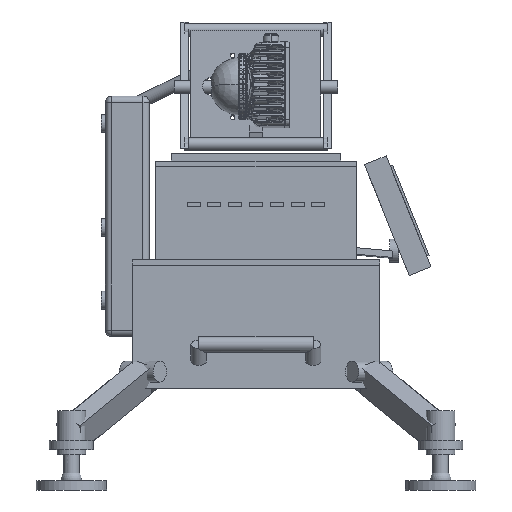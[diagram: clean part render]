
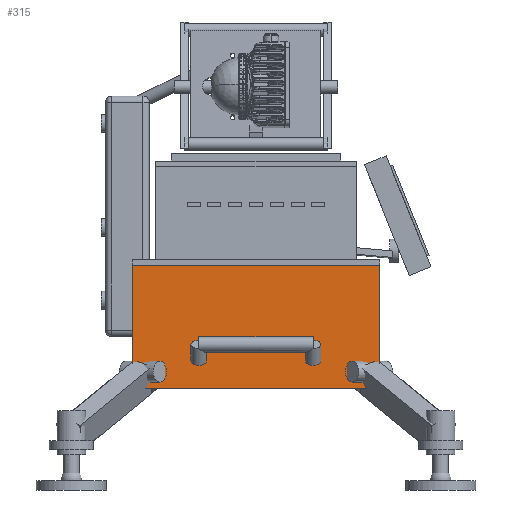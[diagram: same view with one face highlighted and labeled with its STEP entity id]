
A CAD part, left-side view. The second image highlights one B-rep face of the part: STEP entity #315.
In plain terms, the highlighted planar face has unit normal (-1, 0, 0).
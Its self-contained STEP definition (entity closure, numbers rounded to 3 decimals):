
#315 = ADVANCED_FACE('',(#316),#350,.F.);
#316 = FACE_BOUND('',#317,.F.);
#317 = EDGE_LOOP('',(#318,#328,#336,#344));
#318 = ORIENTED_EDGE('',*,*,#319,.F.);
#319 = EDGE_CURVE('',#320,#322,#324,.T.);
#320 = VERTEX_POINT('',#321);
#321 = CARTESIAN_POINT('',(-110.,-95.,78.));
#322 = VERTEX_POINT('',#323);
#323 = CARTESIAN_POINT('',(-110.,-95.,173.));
#324 = LINE('',#325,#326);
#325 = CARTESIAN_POINT('',(-110.,-95.,78.));
#326 = VECTOR('',#327,1.);
#327 = DIRECTION('',(0.,0.,1.));
#328 = ORIENTED_EDGE('',*,*,#329,.T.);
#329 = EDGE_CURVE('',#320,#330,#332,.T.);
#330 = VERTEX_POINT('',#331);
#331 = CARTESIAN_POINT('',(-110.,95.,78.));
#332 = LINE('',#333,#334);
#333 = CARTESIAN_POINT('',(-110.,-95.,78.));
#334 = VECTOR('',#335,1.);
#335 = DIRECTION('',(-0.,1.,0.));
#336 = ORIENTED_EDGE('',*,*,#337,.T.);
#337 = EDGE_CURVE('',#330,#338,#340,.T.);
#338 = VERTEX_POINT('',#339);
#339 = CARTESIAN_POINT('',(-110.,95.,173.));
#340 = LINE('',#341,#342);
#341 = CARTESIAN_POINT('',(-110.,95.,78.));
#342 = VECTOR('',#343,1.);
#343 = DIRECTION('',(0.,0.,1.));
#344 = ORIENTED_EDGE('',*,*,#345,.F.);
#345 = EDGE_CURVE('',#322,#338,#346,.T.);
#346 = LINE('',#347,#348);
#347 = CARTESIAN_POINT('',(-110.,-95.,173.));
#348 = VECTOR('',#349,1.);
#349 = DIRECTION('',(-0.,1.,0.));
#350 = PLANE('',#351);
#351 = AXIS2_PLACEMENT_3D('',#352,#353,#354);
#352 = CARTESIAN_POINT('',(-110.,-95.,78.));
#353 = DIRECTION('',(1.,0.,-0.));
#354 = DIRECTION('',(0.,0.,1.));
